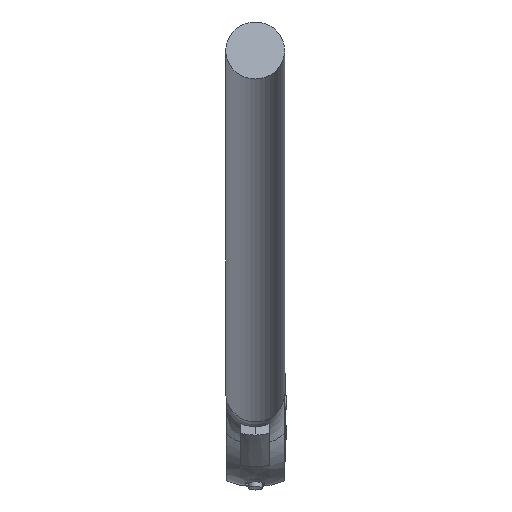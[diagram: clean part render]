
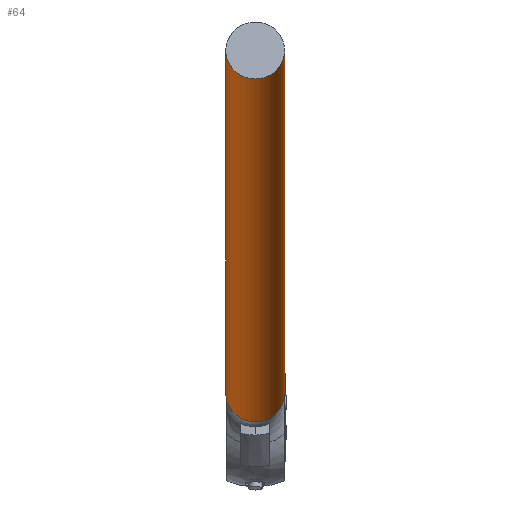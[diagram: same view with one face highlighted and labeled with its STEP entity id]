
A CAD part, left-side view. The second image highlights one B-rep face of the part: STEP entity #64.
In plain terms, the highlighted cylindrical face has radius 25 mm (diameter 50 mm), a full revolution.
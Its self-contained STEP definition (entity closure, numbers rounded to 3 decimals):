
#64 = ADVANCED_FACE ( 'NONE', ( #1681, #97 ), #255, .T. ) ;
#97 = FACE_OUTER_BOUND ( 'NONE', #202, .T. ) ;
#202 = EDGE_LOOP ( 'NONE', ( #569 ) ) ;
#220 = CARTESIAN_POINT ( 'NONE',  ( -778.972, -226.5, 935.208 ) ) ;
#255 = CYLINDRICAL_SURFACE ( 'NONE', #1122, 25. ) ;
#322 = VERTEX_POINT ( 'NONE', #1508 ) ;
#462 = EDGE_LOOP ( 'NONE', ( #1007 ) ) ;
#504 = DIRECTION ( 'NONE',  ( -0.252, 0., -0.968 ) ) ;
#569 = ORIENTED_EDGE ( 'NONE', *, *, #1269, .T. ) ;
#598 = VERTEX_POINT ( 'NONE', #1662 ) ;
#660 = AXIS2_PLACEMENT_3D ( 'NONE', #729, #977, #1612 ) ;
#729 = CARTESIAN_POINT ( 'NONE',  ( 395.006, -226.5, 629.22 ) ) ;
#799 = CIRCLE ( 'NONE', #660, 25. ) ;
#881 = DIRECTION ( 'NONE',  ( -0.968, 0., 0.252 ) ) ;
#977 = DIRECTION ( 'NONE',  ( -0.968, 0., 0.252 ) ) ;
#989 = EDGE_CURVE ( 'NONE', #322, #322, #1150, .T. ) ;
#997 = CARTESIAN_POINT ( 'NONE',  ( -720.235, -226.5, 919.898 ) ) ;
#1007 = ORIENTED_EDGE ( 'NONE', *, *, #989, .F. ) ;
#1122 = AXIS2_PLACEMENT_3D ( 'NONE', #220, #1293, #1673 ) ;
#1150 = CIRCLE ( 'NONE', #1371, 25. ) ;
#1269 = EDGE_CURVE ( 'NONE', #598, #598, #799, .T. ) ;
#1293 = DIRECTION ( 'NONE',  ( -0.968, 0., 0.252 ) ) ;
#1371 = AXIS2_PLACEMENT_3D ( 'NONE', #997, #881, #504 ) ;
#1508 = CARTESIAN_POINT ( 'NONE',  ( -726.541, -226.5, 895.707 ) ) ;
#1612 = DIRECTION ( 'NONE',  ( 0.252, 0., 0.968 ) ) ;
#1662 = CARTESIAN_POINT ( 'NONE',  ( 401.311, -226.5, 653.412 ) ) ;
#1673 = DIRECTION ( 'NONE',  ( 0.252, 0., 0.968 ) ) ;
#1681 = FACE_OUTER_BOUND ( 'NONE', #462, .T. ) ;
